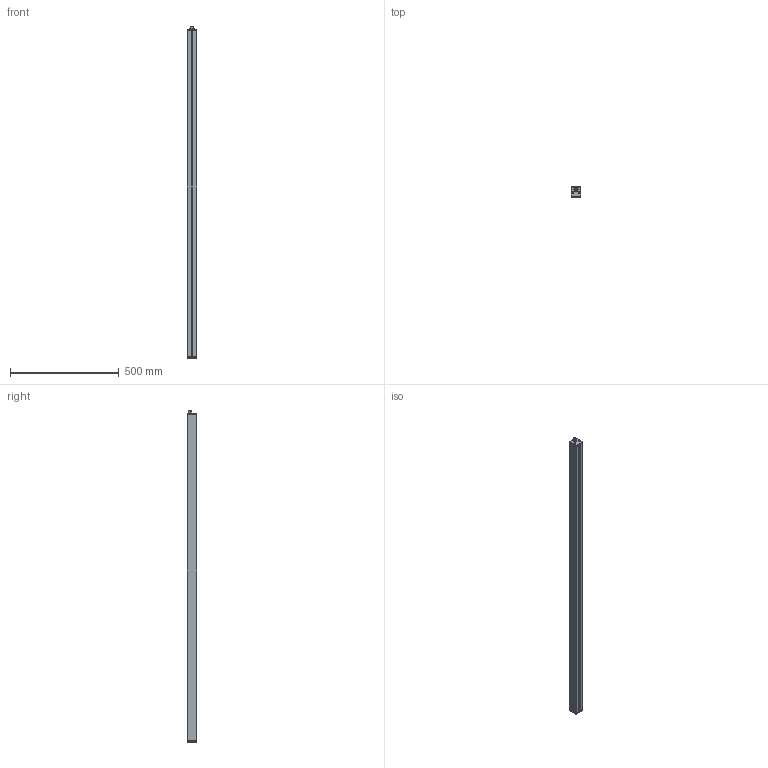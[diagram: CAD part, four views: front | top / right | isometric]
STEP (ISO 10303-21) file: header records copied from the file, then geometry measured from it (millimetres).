
FILE_DESCRIPTION (( 'STEP AP214' ), '1' );
FILE_NAME ('NBAR60.STEP', '2012-01-13T18:28:30', ( 'JRLEDS' ), ( '' ), 'SwSTEP 2.0', 'SolidWorks 2010', '' );
FILE_SCHEMA (( 'AUTOMOTIVE_DESIGN' ));
Length unit declared in the file: millimetre
Products named in the file (8): Embout ALU; PROT-NBAR60; screw_din_912-m5x0_8-10-8_8_Default; Embout percé ALU; SW3DPS-FISCHER_DBP_103_Z053-130-DEFAULT; CIR6LED; NBAR60; PROF-NBAR60
Assembly tree (19 placements, depth 2):
  NBAR60
    CIR6LED  x10
    screw_din_912-m5x0_8-10-8_8_Default  x4
    Embout percé ALU
    SW3DPS-FISCHER_DBP_103_Z053-130-DEFAULT
    PROT-NBAR60
    Embout ALU
    PROF-NBAR60
Bounding box: 45.1 x 45 x 1530 mm (x, y, z)
Volume: 990943.1 mm3; surface area: 948497.9 mm2
Topology: 79 solids, 79 shells, 708 faces, 1545 edges, 994 vertices
Faces by surface type: plane 459, cylinder 211, cone 16, torus 14, sphere 8
Entity records: 9140 total; most frequent: DIRECTION 1314, CARTESIAN_POINT 1283, ORIENTED_EDGE 1180, EDGE_CURVE 590, AXIS2_PLACEMENT_3D 462, VECTOR 390, LINE 390, VERTEX_POINT 379
